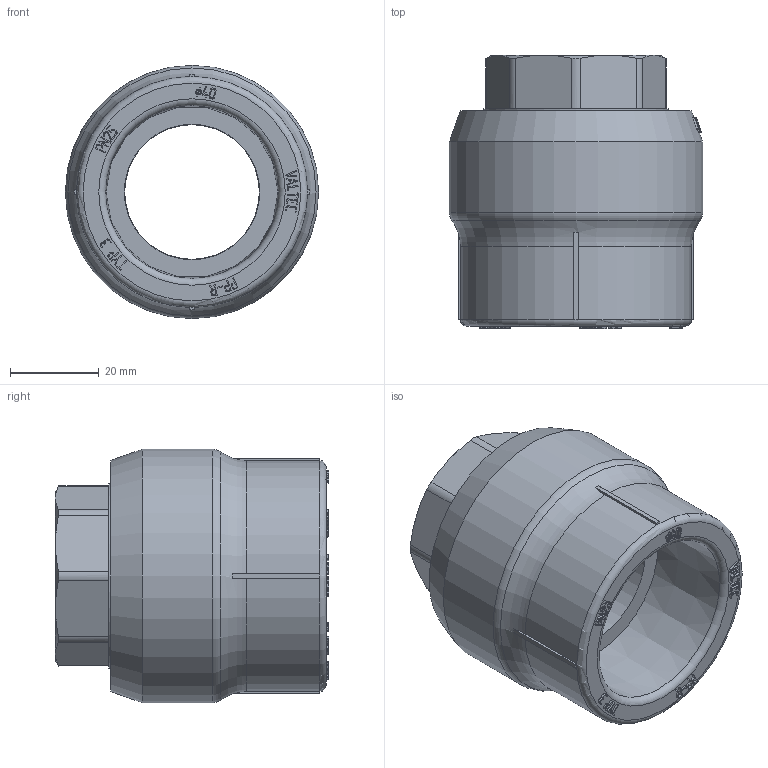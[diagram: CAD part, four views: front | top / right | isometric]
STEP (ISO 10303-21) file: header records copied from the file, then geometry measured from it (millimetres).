
FILE_DESCRIPTION(('STEP AP203'), '1');
FILE_NAME('ÂÐ.753153.016 - VTp.706.0.04006', '', ('UNSPECIFIED'), ('UNSPECIFIED'), 'C3D Converter', 'C3D Toolkit', '');
FILE_SCHEMA(('CONFIG_CONTROL_DESIGN'));
Length unit declared in the file: millimetre
Products named in the file (4): ВР.753153.016; ВР.302639.017.000; ВР.753154.018
Assembly tree (3 placements, depth 3):
  ВР.753153.016
    ВР.302639.017.000
      ВР.753154.018
      (unnamed)
Bounding box: 57 x 61.5 x 57 mm (x, y, z)
Volume: 73919.6 mm3; surface area: 36984.9 mm2
Topology: 3 solids, 3 shells, 798 faces, 2191 edges, 1455 vertices
Faces by surface type: extrusion 385, plane 354, cylinder 36, cone 18, torus 5
Full cylindrical faces by diameter (mm): 30.292 x1, 30.5 x1, 36 x2, 40 x8, 41.5 x1, 46 x10, 57 x1
Entity records: 28259 total; most frequent: CARTESIAN_POINT 9467, ORIENTED_EDGE 4306, DIRECTION 2643, EDGE_CURVE 2153, VECTOR 1509, VERTEX_POINT 1448, B_SPLINE_CURVE_WITH_KNOTS 1269, LINE 1124
